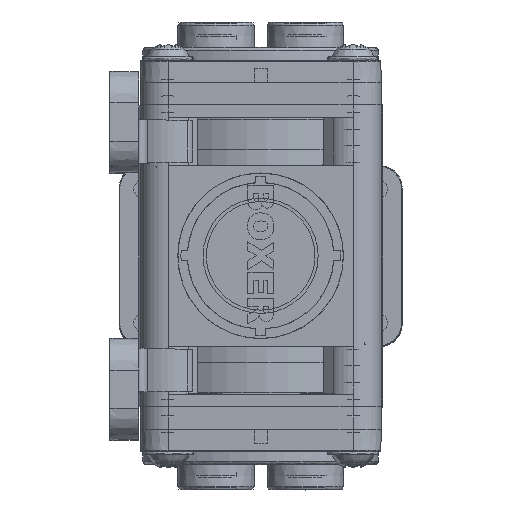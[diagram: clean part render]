
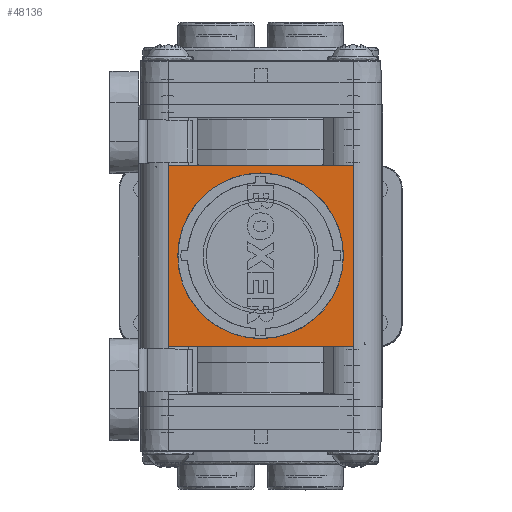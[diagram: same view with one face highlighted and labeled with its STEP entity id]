
A CAD part, top view. The second image highlights one B-rep face of the part: STEP entity #48136.
In plain terms, the highlighted planar face has unit normal (0, 0, 1).
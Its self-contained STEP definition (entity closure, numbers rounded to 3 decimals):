
#1817 = EDGE_LOOP ( 'NONE', ( #84662, #5050, #87614, #58449 ) ) ;
#3313 = VECTOR ( 'NONE', #35656, 1000. ) ;
#4307 = EDGE_CURVE ( 'NONE', #68998, #21591, #75955, .T. ) ;
#5050 = ORIENTED_EDGE ( 'NONE', *, *, #4307, .T. ) ;
#5190 = DIRECTION ( 'NONE',  ( 0., 0., 1. ) ) ;
#6663 = VERTEX_POINT ( 'NONE', #27478 ) ;
#11824 = ORIENTED_EDGE ( 'NONE', *, *, #62876, .F. ) ;
#12191 = VECTOR ( 'NONE', #84622, 1000. ) ;
#16842 = FACE_OUTER_BOUND ( 'NONE', #1817, .T. ) ;
#19768 = CARTESIAN_POINT ( 'NONE',  ( -13., 0., 21.512 ) ) ;
#21154 = CARTESIAN_POINT ( 'NONE',  ( -14.5, -14.2, 21.512 ) ) ;
#21190 = CARTESIAN_POINT ( 'NONE',  ( 14.5, -14.2, 21.512 ) ) ;
#21591 = VERTEX_POINT ( 'NONE', #21190 ) ;
#24386 = VECTOR ( 'NONE', #76201, 1000. ) ;
#25773 = PLANE ( 'NONE',  #60804 ) ;
#26419 = DIRECTION ( 'NONE',  ( 1., 0., 0. ) ) ;
#26792 = AXIS2_PLACEMENT_3D ( 'NONE', #68951, #5190, #55276 ) ;
#27478 = CARTESIAN_POINT ( 'NONE',  ( 14.5, 14.2, 21.512 ) ) ;
#34161 = LINE ( 'NONE', #55892, #24386 ) ;
#35656 = DIRECTION ( 'NONE',  ( 1., 0., 0. ) ) ;
#38810 = EDGE_LOOP ( 'NONE', ( #11824 ) ) ;
#38821 = VERTEX_POINT ( 'NONE', #53400 ) ;
#40372 = EDGE_CURVE ( 'NONE', #38821, #6663, #70132, .T. ) ;
#47490 = DIRECTION ( 'NONE',  ( 1., 0., 0. ) ) ;
#48136 = ADVANCED_FACE ( 'NONE', ( #75788, #16842 ), #25773, .F. ) ;
#53400 = CARTESIAN_POINT ( 'NONE',  ( -14.5, 14.2, 21.512 ) ) ;
#54095 = DIRECTION ( 'NONE',  ( 0., 0., -1. ) ) ;
#54854 = EDGE_CURVE ( 'NONE', #68998, #38821, #73542, .T. ) ;
#55276 = DIRECTION ( 'NONE',  ( -1., 0., 0. ) ) ;
#55892 = CARTESIAN_POINT ( 'NONE',  ( 14.5, -63.987, 21.512 ) ) ;
#58449 = ORIENTED_EDGE ( 'NONE', *, *, #40372, .F. ) ;
#60699 = CARTESIAN_POINT ( 'NONE',  ( -14.5, -63.987, 21.512 ) ) ;
#60804 = AXIS2_PLACEMENT_3D ( 'NONE', #74848, #54095, #47490 ) ;
#62876 = EDGE_CURVE ( 'NONE', #91452, #91452, #73476, .T. ) ;
#68951 = CARTESIAN_POINT ( 'NONE',  ( 0., 0., 21.512 ) ) ;
#68998 = VERTEX_POINT ( 'NONE', #21154 ) ;
#70132 = LINE ( 'NONE', #79030, #3313 ) ;
#73476 = CIRCLE ( 'NONE', #26792, 13. ) ;
#73542 = LINE ( 'NONE', #60699, #12191 ) ;
#74848 = CARTESIAN_POINT ( 'NONE',  ( 14.5, -63.987, 21.512 ) ) ;
#75788 = FACE_BOUND ( 'NONE', #38810, .T. ) ;
#75955 = LINE ( 'NONE', #90948, #92170 ) ;
#76201 = DIRECTION ( 'NONE',  ( 0., 1., 0. ) ) ;
#79030 = CARTESIAN_POINT ( 'NONE',  ( 14.5, 14.2, 21.512 ) ) ;
#83848 = EDGE_CURVE ( 'NONE', #21591, #6663, #34161, .T. ) ;
#84622 = DIRECTION ( 'NONE',  ( 0., 1., 0. ) ) ;
#84662 = ORIENTED_EDGE ( 'NONE', *, *, #54854, .F. ) ;
#87614 = ORIENTED_EDGE ( 'NONE', *, *, #83848, .T. ) ;
#90948 = CARTESIAN_POINT ( 'NONE',  ( 14.5, -14.2, 21.512 ) ) ;
#91452 = VERTEX_POINT ( 'NONE', #19768 ) ;
#92170 = VECTOR ( 'NONE', #26419, 1000. ) ;
